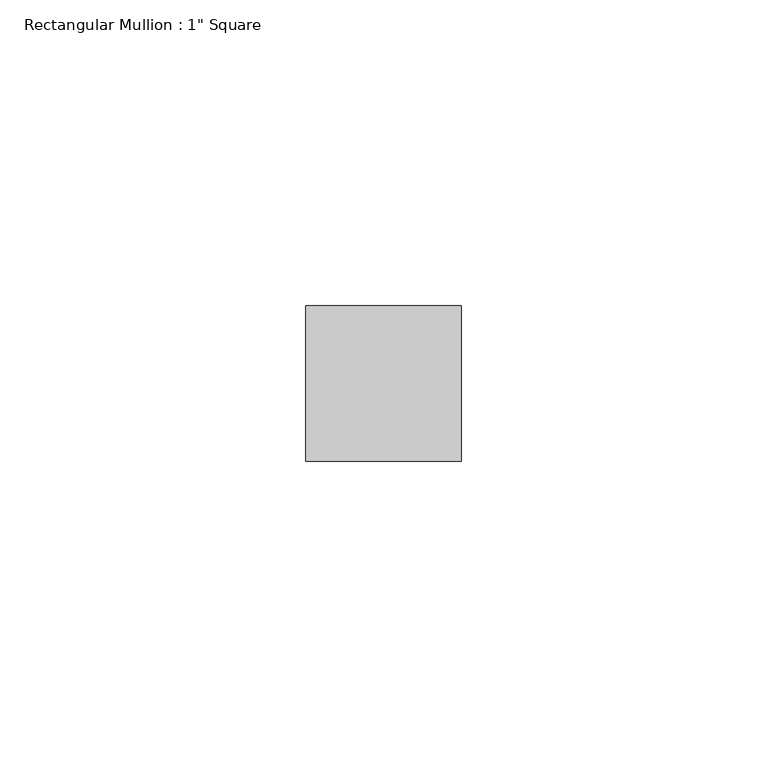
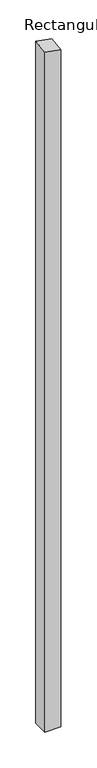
"""IFC4 building model written with IfcOpenShell, lengths in millimetres: member geometry."""

from ifc_helpers import new_model, si_unit, origin, place, context, project, spatial, faceted_brep, source, transform, mapped, element, save


def member_3381ad2c(model_context):
    return source(origin(), model_context, "Body", "Brep", [
        faceted_brep([(12.7, 12.7, -1155.9770019), (12.7, -12.7, -1155.9770019), (-12.7, -12.7, -1155.9770019), (-12.7, 12.7, -1155.9770019), (-12.7, 12.7, 4.2392104), (12.7, 12.7, -1.0021923), (-12.7, -12.7, 1.0021923), (12.7, -12.7, -4.2392104)], [[[0, 1, 2, 3]], [[4, 5, 0, 3]], [[6, 4, 3, 2]], [[7, 6, 2, 1]], [[5, 7, 1, 0]], [[5, 4, 6, 7]]]),
    ])


if __name__ == "__main__":
    model = new_model("IFC4")
    model_context = context("Model", 3, world=origin())
    ifc_project = project(units=[si_unit("LENGTHUNIT", "METRE", prefix="MILLI")], contexts=[model_context])
    site = spatial("IfcSite", under=ifc_project)
    building = spatial("IfcBuilding", under=site)
    placement = place(None, origin())
    member_shape = member_3381ad2c(model_context)
    element("IfcMember", 1, ObjectType="Rectangular Mullion : 1\" Square", at=placement, inside=building, context=model_context, shape_type="MappedRepresentation", body=[
        mapped(member_shape, transform((0.0, 0.0, 0.0), x_axis=(1.0, 0.0, 0.0), y_axis=(0.0, 1.0, 0.0), z_axis=(0.0, 0.0, 1.0))),
    ])
    save(model, "model.ifc")
